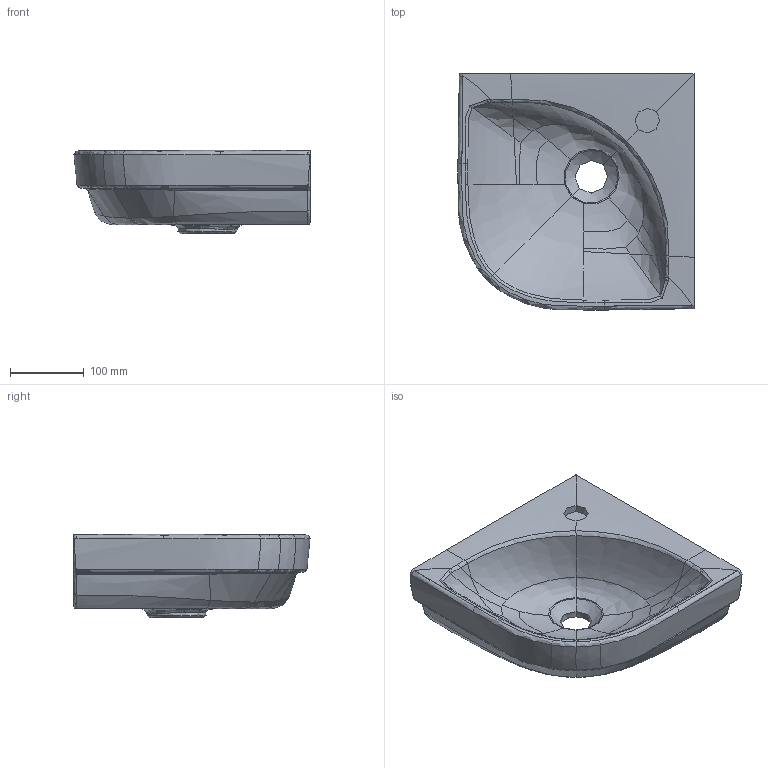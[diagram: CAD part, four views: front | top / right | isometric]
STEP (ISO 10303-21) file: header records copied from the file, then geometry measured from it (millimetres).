
FILE_DESCRIPTION(/* description */ (''),/* implementation_level */ '2;1');
FILE_NAME(/* name */ '437145_437146.stp',/* time_stamp */ '2021-01-13T12:37:41+01:00',/* author */ (''),/* organization */ (''),/* preprocessor_version */ 'ST-DEVELOPER v16.7',/* originating_system */ 'SIEMENS PLM Software NX 1863',/* authorisation */ '');
FILE_SCHEMA (('AUTOMOTIVE_DESIGN { 1 0 10303 214 3 1 1 1 }'));
Products named in the file (1): Muel37547724v06k
Bounding box: 320.38 x 320.38 x 113.35 mm (x, y, z)
Volume: 5555571.6 mm3; surface area: 330565 mm2
Topology: 1 solids, 1 shells, 129 faces, 304 edges, 173 vertices
Faces by surface type: bspline 114, plane 5, cone 4, torus 2, cylinder 2, extrusion 2
Entity records: 35209 total; most frequent: CARTESIAN_POINT 33249, ORIENTED_EDGE 604, EDGE_CURVE 302, B_SPLINE_CURVE_WITH_KNOTS 257, VERTEX_POINT 173, ADVANCED_FACE 129, FACE_OUTER_BOUND 129, EDGE_LOOP 129
